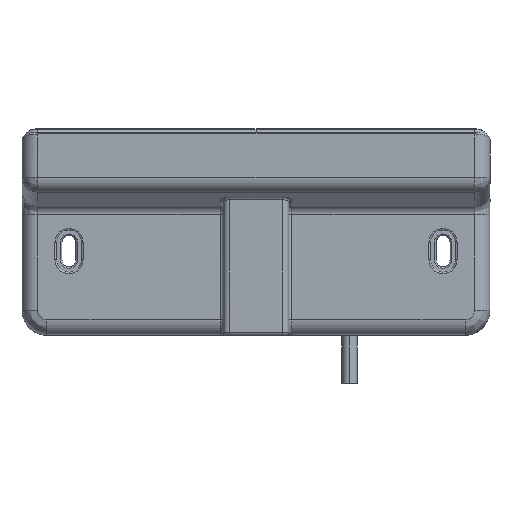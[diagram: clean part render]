
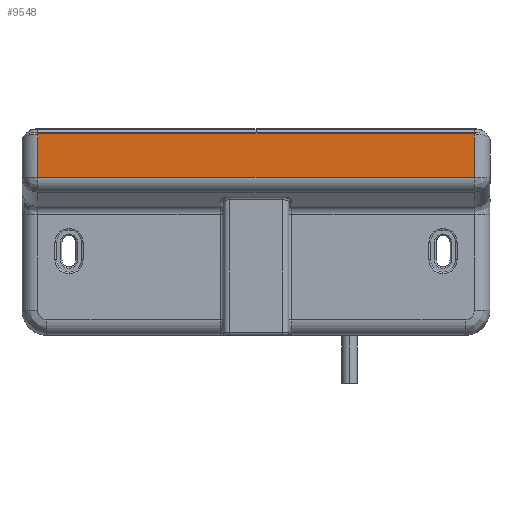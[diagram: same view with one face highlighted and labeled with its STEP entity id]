
A CAD part, front view. The second image highlights one B-rep face of the part: STEP entity #9548.
In plain terms, the highlighted planar face has unit normal (0, -1, 0).
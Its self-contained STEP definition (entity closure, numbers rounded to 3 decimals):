
#642 = CARTESIAN_POINT ( 'NONE',  ( 0., -16., 12.55 ) ) ;
#723 = CARTESIAN_POINT ( 'NONE',  ( 70., -16., -30. ) ) ;
#915 = ORIENTED_EDGE ( 'NONE', *, *, #15305, .F. ) ;
#1208 = LINE ( 'NONE', #8190, #8947 ) ;
#1303 = CARTESIAN_POINT ( 'NONE',  ( -23.333, -16., 12.569 ) ) ;
#2075 = CARTESIAN_POINT ( 'NONE',  ( 46.667, -16., 12.579 ) ) ;
#3144 = CARTESIAN_POINT ( 'NONE',  ( 58.333, -16., 12.574 ) ) ;
#3319 = CARTESIAN_POINT ( 'NONE',  ( 70., -16., -1.399 ) ) ;
#3691 = VERTEX_POINT ( 'NONE', #5644 ) ;
#3918 = CARTESIAN_POINT ( 'NONE',  ( -58.333, -16., 12.577 ) ) ;
#4011 = ORIENTED_EDGE ( 'NONE', *, *, #10972, .F. ) ;
#4300 = VERTEX_POINT ( 'NONE', #3319 ) ;
#4383 = VECTOR ( 'NONE', #5932, 1000. ) ;
#4685 = PLANE ( 'NONE',  #10240 ) ;
#4693 = CARTESIAN_POINT ( 'NONE',  ( 11.667, -16., 12.549 ) ) ;
#5343 = VECTOR ( 'NONE', #11357, 1000. ) ;
#5644 = CARTESIAN_POINT ( 'NONE',  ( 70., -16., 12.55 ) ) ;
#5829 = CARTESIAN_POINT ( 'NONE',  ( -75., -16., -30. ) ) ;
#5932 = DIRECTION ( 'NONE',  ( 0., 0., 1. ) ) ;
#6132 = EDGE_CURVE ( 'NONE', #13272, #4300, #1208, .T. ) ;
#6995 = CARTESIAN_POINT ( 'NONE',  ( 23.333, -16., 12.565 ) ) ;
#7643 = ORIENTED_EDGE ( 'NONE', *, *, #8974, .F. ) ;
#7841 = LINE ( 'NONE', #10992, #4383 ) ;
#7850 = CARTESIAN_POINT ( 'NONE',  ( 0., -16., 12.55 ) ) ;
#8190 = CARTESIAN_POINT ( 'NONE',  ( -75., -16., -1.399 ) ) ;
#8947 = VECTOR ( 'NONE', #10798, 1000. ) ;
#8974 = EDGE_CURVE ( 'NONE', #16037, #9673, #12848, .T. ) ;
#9156 = CARTESIAN_POINT ( 'NONE',  ( -70., -16., 12.55 ) ) ;
#9262 = EDGE_LOOP ( 'NONE', ( #915, #13059, #12568, #4011, #7643 ) ) ;
#9548 = ADVANCED_FACE ( 'NONE', ( #16616 ), #4685, .T. ) ;
#9673 = VERTEX_POINT ( 'NONE', #11384 ) ;
#10240 = AXIS2_PLACEMENT_3D ( 'NONE', #5829, #10996, #12358 ) ;
#10453 = EDGE_CURVE ( 'NONE', #3691, #4300, #12261, .T. ) ;
#10798 = DIRECTION ( 'NONE',  ( 1., 0., 0. ) ) ;
#10972 = EDGE_CURVE ( 'NONE', #9673, #3691, #11899, .T. ) ;
#10992 = CARTESIAN_POINT ( 'NONE',  ( -70., -16., -30. ) ) ;
#10996 = DIRECTION ( 'NONE',  ( 0., -1., 0. ) ) ;
#11357 = DIRECTION ( 'NONE',  ( 0., 0., -1. ) ) ;
#11384 = CARTESIAN_POINT ( 'NONE',  ( 0., -16., 12.55 ) ) ;
#11899 = B_SPLINE_CURVE_WITH_KNOTS ( 'NONE', 3,
 ( #642, #4693, #6995, #2075, #3144, #13569 ),
 .UNSPECIFIED., .F., .F.,
 ( 4, 2, 4 ),
 ( 0., 0.5, 1. ),
 .UNSPECIFIED. ) ;
#11936 = CARTESIAN_POINT ( 'NONE',  ( -46.667, -16., 12.585 ) ) ;
#12261 = LINE ( 'NONE', #723, #5343 ) ;
#12358 = DIRECTION ( 'NONE',  ( 0., 0., -1. ) ) ;
#12568 = ORIENTED_EDGE ( 'NONE', *, *, #10453, .F. ) ;
#12848 = B_SPLINE_CURVE_WITH_KNOTS ( 'NONE', 3,
 ( #9156, #3918, #11936, #1303, #14353, #7850 ),
 .UNSPECIFIED., .F., .F.,
 ( 4, 2, 4 ),
 ( 0., 0.5, 1. ),
 .UNSPECIFIED. ) ;
#13059 = ORIENTED_EDGE ( 'NONE', *, *, #6132, .T. ) ;
#13272 = VERTEX_POINT ( 'NONE', #16310 ) ;
#13283 = CARTESIAN_POINT ( 'NONE',  ( -70., -16., 12.55 ) ) ;
#13569 = CARTESIAN_POINT ( 'NONE',  ( 70., -16., 12.55 ) ) ;
#14353 = CARTESIAN_POINT ( 'NONE',  ( -11.667, -16., 12.551 ) ) ;
#15305 = EDGE_CURVE ( 'NONE', #13272, #16037, #7841, .T. ) ;
#16037 = VERTEX_POINT ( 'NONE', #13283 ) ;
#16310 = CARTESIAN_POINT ( 'NONE',  ( -70., -16., -1.399 ) ) ;
#16616 = FACE_OUTER_BOUND ( 'NONE', #9262, .T. ) ;
